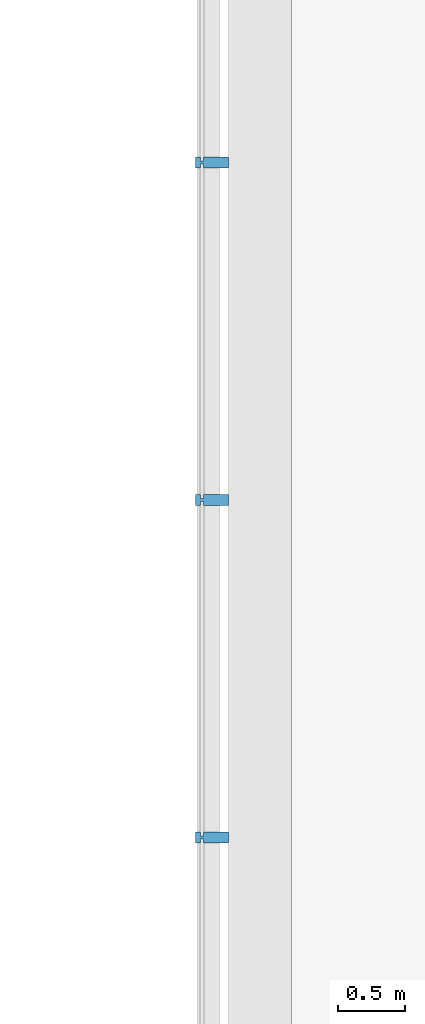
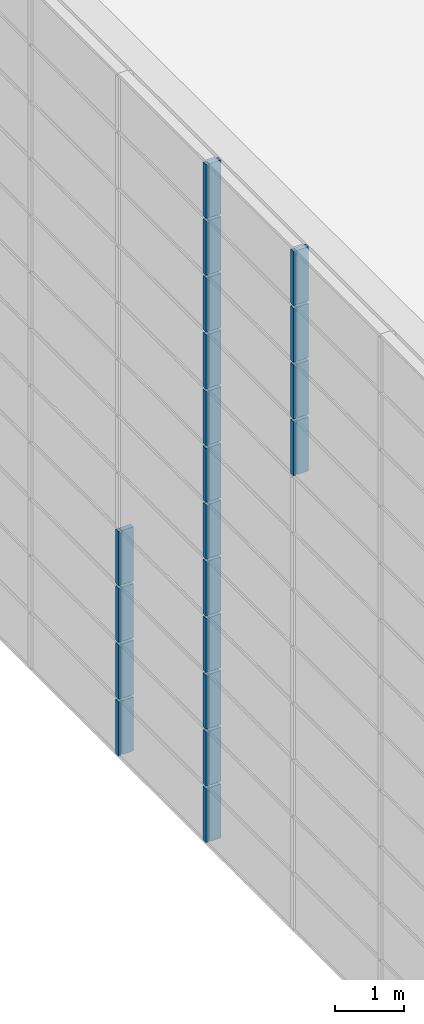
# One storey, part 71 of 105: 20 building element parts, 4 elements without a shape of their own.
"""IFC4 building model written with IfcOpenShell, lengths in millimetres."""

from ifc_helpers import new_model, entity, si_unit, converted_unit, derived_unit, direction, frame, origin_with_axes, place, context, subcontext, project, spatial, triangles, material, element, aggregate, save


model = new_model("IFC4")

# Units and contexts
model_context = context("Model", 3, precision=1e-05, world=origin_with_axes(), true_north=direction((0.0, 1.0)))
body_context = subcontext(model_context, "Body", "Model", "MODEL_VIEW")
ifc_project = project(units=[si_unit("LENGTHUNIT", "METRE", prefix="MILLI"), si_unit("AREAUNIT", "SQUARE_METRE"), si_unit("VOLUMEUNIT", "CUBIC_METRE"), converted_unit("PLANEANGLEUNIT", "DEGREE", entity("IfcLengthMeasure", 0.017453), si_unit("PLANEANGLEUNIT", "RADIAN"), dimensions=[0, 0, 0, 0, 0, 0, 0]), si_unit("SOLIDANGLEUNIT", "STERADIAN"), si_unit("MASSUNIT", "GRAM"), si_unit("TIMEUNIT", "SECOND"), si_unit("THERMODYNAMICTEMPERATUREUNIT", "DEGREE_CELSIUS"), si_unit("LUMINOUSINTENSITYUNIT", "LUMEN"), si_unit("POWERUNIT", "WATT"), derived_unit("THERMALTRANSMITTANCEUNIT", [(si_unit("POWERUNIT", "WATT"), 1), (si_unit("THERMODYNAMICTEMPERATUREUNIT", "KELVIN"), -1), (si_unit("AREAUNIT", "SQUARE_METRE"), -1)])], contexts=[model_context])

# Site, building, storey
site_placement = place(None, origin_with_axes())
site = spatial("IfcSite", under=ifc_project, at=site_placement, Name="Default Site", CompositionType="ELEMENT")
building_placement = place(site_placement, origin_with_axes())
building = spatial("IfcBuilding", under=site, at=building_placement, Name="Default Building", CompositionType="ELEMENT")
storey_placement = place(building_placement, origin_with_axes())
storey = spatial("IfcBuildingStorey", under=building, at=storey_placement, Name="OG - Story", CompositionType="ELEMENT", Elevation=0.0)

# Curtain wall, building element parts
curtain_wall_1_placement = place(storey_placement, origin_with_axes())
curtain_wall_1 = element("IfcCurtainWall", 1, at=curtain_wall_1_placement, inside=storey, Name="Fassade-003", PredefinedType="NOTDEFINED")
ifc_material = material(Name="Blech")
building_element_part_1_placement = place(curtain_wall_1_placement, frame((31551.391327, -51326.104944, 0.0), z_axis=(0.0, 0.0, 1.0), x_axis=(1.0, 0.0, 0.0)))
building_element_part_1 = element("IfcBuildingElementPart", 2, at=building_element_part_1_placement, material=ifc_material, Name="Blech", PredefinedType="NOTDEFINED", context=body_context, shape_type="Tessellation", body=[
    triangles([(200.0, 18907.368, 975.0), (10.0, 18907.368, 975.0), (200.0, 18987.368, 975.0), (10.0, 18937.368, 975.0), (10.0, 18957.368, 975.0), (-9.999, 18937.368, 975.0), (-9.999, 18957.368, 975.0), (-9.999, 18987.368, 975.0), (-9.999, 18907.368, 975.0), (-49.999, 18907.368, 975.0), (-49.999, 18987.368, 975.0), (10.0, 18987.368, 975.0), (10.0, 18957.368, 25.0), (-9.999, 18957.368, 25.0), (-9.999, 18987.368, 25.0), (-49.999, 18987.368, 25.0), (-49.999, 18907.368, 25.0), (-9.999, 18907.368, 25.0), (-9.999, 18937.368, 25.0), (10.0, 18937.368, 25.0), (10.0, 18907.368, 25.0), (200.0, 18907.368, 25.0), (200.0, 18987.368, 25.0), (10.0, 18987.368, 25.0)], [[1, 2, 3], [3, 2, 4], [3, 4, 5], [5, 4, 6], [5, 6, 7], [8, 9, 10], [8, 10, 11], [3, 5, 12], [5, 13, 14], [5, 14, 7], [7, 14, 15], [7, 15, 8], [15, 16, 11], [15, 11, 8], [10, 11, 16], [10, 16, 17], [18, 9, 10], [18, 10, 17], [9, 18, 19], [9, 19, 6], [4, 6, 19], [4, 19, 20], [2, 4, 20], [2, 20, 21], [2, 21, 22], [2, 22, 1], [3, 1, 22], [3, 22, 23], [12, 3, 23], [12, 23, 24], [12, 24, 13], [12, 13, 5], [23, 24, 22], [22, 24, 13], [22, 13, 20], [20, 13, 14], [20, 14, 19], [18, 15, 16], [18, 16, 17], [22, 20, 21]], closed=False),
])
building_element_part_2_placement = place(curtain_wall_1_placement, frame((31551.391327, -51326.104944, 0.0), z_axis=(0.0, 0.0, 1.0), x_axis=(1.0, 0.0, 0.0)))
building_element_part_2 = element("IfcBuildingElementPart", 3, at=building_element_part_2_placement, material=ifc_material, Name="Blech", PredefinedType="NOTDEFINED", context=body_context, shape_type="Tessellation", body=[
    triangles([(200.0, 21433.684, 975.0), (10.0, 21433.684, 975.0), (200.0, 21513.684, 975.0), (10.0, 21463.684, 975.0), (10.0, 21483.684, 975.0), (-9.999, 21463.684, 975.0), (-9.999, 21483.684, 975.0), (-9.999, 21513.684, 975.0), (-9.999, 21433.684, 975.0), (-49.999, 21433.684, 975.0), (-49.999, 21513.684, 975.0), (10.0, 21513.684, 975.0), (10.0, 21483.684, 25.0), (-9.999, 21483.684, 25.0), (-9.999, 21513.684, 25.0), (-49.999, 21513.684, 25.0), (-49.999, 21433.684, 25.0), (-9.999, 21433.684, 25.0), (-9.999, 21463.684, 25.0), (10.0, 21463.684, 25.0), (10.0, 21433.684, 25.0), (200.0, 21433.684, 25.0), (200.0, 21513.684, 25.0), (10.0, 21513.684, 25.0)], [[1, 2, 3], [3, 2, 4], [3, 4, 5], [5, 4, 6], [5, 6, 7], [8, 9, 10], [8, 10, 11], [3, 5, 12], [5, 13, 14], [5, 14, 7], [7, 14, 15], [7, 15, 8], [15, 16, 11], [15, 11, 8], [10, 11, 16], [10, 16, 17], [18, 9, 10], [18, 10, 17], [9, 18, 19], [9, 19, 6], [4, 6, 19], [4, 19, 20], [2, 4, 20], [2, 20, 21], [2, 21, 22], [2, 22, 1], [3, 1, 22], [3, 22, 23], [12, 3, 23], [12, 23, 24], [12, 24, 13], [12, 13, 5], [23, 24, 22], [22, 24, 13], [22, 13, 20], [20, 13, 14], [20, 14, 19], [18, 15, 16], [18, 16, 17], [22, 20, 21]], closed=False),
])
building_element_part_3_placement = place(curtain_wall_1_placement, frame((31551.391327, -51326.104944, 0.0), z_axis=(0.0, 0.0, 1.0), x_axis=(1.0, 0.0, 0.0)))
building_element_part_3 = element("IfcBuildingElementPart", 4, at=building_element_part_3_placement, material=ifc_material, Name="Blech", PredefinedType="NOTDEFINED", context=body_context, shape_type="Tessellation", body=[
    triangles([(200.0, 18907.368, 1975.0), (10.0, 18907.368, 1975.0), (200.0, 18987.368, 1975.0), (10.0, 18937.368, 1975.0), (10.0, 18957.368, 1975.0), (-9.999, 18937.368, 1975.0), (-9.999, 18957.368, 1975.0), (-9.999, 18987.368, 1975.0), (-9.999, 18907.368, 1975.0), (-49.999, 18907.368, 1975.0), (-49.999, 18987.368, 1975.0), (10.0, 18987.368, 1975.0), (10.0, 18957.368, 1025.0), (-9.999, 18957.368, 1025.0), (-9.999, 18987.368, 1025.0), (-49.999, 18987.368, 1025.0), (-49.999, 18907.368, 1025.0), (-9.999, 18907.368, 1025.0), (-9.999, 18937.368, 1025.0), (10.0, 18937.368, 1025.0), (10.0, 18907.368, 1025.0), (200.0, 18907.368, 1025.0), (200.0, 18987.368, 1025.0), (10.0, 18987.368, 1025.0)], [[1, 2, 3], [3, 2, 4], [3, 4, 5], [5, 4, 6], [5, 6, 7], [8, 9, 10], [8, 10, 11], [3, 5, 12], [5, 13, 14], [5, 14, 7], [7, 14, 15], [7, 15, 8], [15, 16, 11], [15, 11, 8], [10, 11, 16], [10, 16, 17], [18, 9, 10], [18, 10, 17], [9, 18, 19], [9, 19, 6], [4, 6, 19], [4, 19, 20], [2, 4, 20], [2, 20, 21], [2, 21, 22], [2, 22, 1], [3, 1, 22], [3, 22, 23], [12, 3, 23], [12, 23, 24], [12, 24, 13], [12, 13, 5], [23, 24, 22], [22, 24, 13], [22, 13, 20], [20, 13, 14], [20, 14, 19], [18, 15, 16], [18, 16, 17], [22, 20, 21]], closed=False),
])
building_element_part_4_placement = place(curtain_wall_1_placement, frame((31551.391327, -51326.104944, 0.0), z_axis=(0.0, 0.0, 1.0), x_axis=(1.0, 0.0, 0.0)))
building_element_part_4 = element("IfcBuildingElementPart", 5, at=building_element_part_4_placement, material=ifc_material, Name="Blech", PredefinedType="NOTDEFINED", context=body_context, shape_type="Tessellation", body=[
    triangles([(200.0, 21433.684, 1975.0), (10.0, 21433.684, 1975.0), (200.0, 21513.684, 1975.0), (10.0, 21463.684, 1975.0), (10.0, 21483.684, 1975.0), (-9.999, 21463.684, 1975.0), (-9.999, 21483.684, 1975.0), (-9.999, 21513.684, 1975.0), (-9.999, 21433.684, 1975.0), (-49.999, 21433.684, 1975.0), (-49.999, 21513.684, 1975.0), (10.0, 21513.684, 1975.0), (10.0, 21483.684, 1025.0), (-9.999, 21483.684, 1025.0), (-9.999, 21513.684, 1025.0), (-49.999, 21513.684, 1025.0), (-49.999, 21433.684, 1025.0), (-9.999, 21433.684, 1025.0), (-9.999, 21463.684, 1025.0), (10.0, 21463.684, 1025.0), (10.0, 21433.684, 1025.0), (200.0, 21433.684, 1025.0), (200.0, 21513.684, 1025.0), (10.0, 21513.684, 1025.0)], [[1, 2, 3], [3, 2, 4], [3, 4, 5], [5, 4, 6], [5, 6, 7], [8, 9, 10], [8, 10, 11], [3, 5, 12], [5, 13, 14], [5, 14, 7], [7, 14, 15], [7, 15, 8], [15, 16, 11], [15, 11, 8], [10, 11, 16], [10, 16, 17], [18, 9, 10], [18, 10, 17], [9, 18, 19], [9, 19, 6], [4, 6, 19], [4, 19, 20], [2, 4, 20], [2, 20, 21], [2, 21, 22], [2, 22, 1], [3, 1, 22], [3, 22, 23], [12, 3, 23], [12, 23, 24], [12, 24, 13], [12, 13, 5], [23, 24, 22], [22, 24, 13], [22, 13, 20], [20, 13, 14], [20, 14, 19], [18, 15, 16], [18, 16, 17], [22, 20, 21]], closed=False),
])
building_element_part_5_placement = place(curtain_wall_1_placement, frame((31551.391327, -51326.104944, 0.0), z_axis=(0.0, 0.0, 1.0), x_axis=(1.0, 0.0, 0.0)))
building_element_part_5 = element("IfcBuildingElementPart", 6, at=building_element_part_5_placement, material=ifc_material, Name="Blech", PredefinedType="NOTDEFINED", context=body_context, shape_type="Tessellation", body=[
    triangles([(200.0, 18907.368, 2975.0), (10.0, 18907.368, 2975.0), (200.0, 18987.368, 2975.0), (10.0, 18937.368, 2975.0), (10.0, 18957.368, 2975.0), (-9.999, 18937.368, 2975.0), (-9.999, 18957.368, 2975.0), (-9.999, 18987.368, 2975.0), (-9.999, 18907.368, 2975.0), (-49.999, 18907.368, 2975.0), (-49.999, 18987.368, 2975.0), (10.0, 18987.368, 2975.0), (10.0, 18957.368, 2025.0), (-9.999, 18957.368, 2025.0), (-9.999, 18987.368, 2025.0), (-49.999, 18987.368, 2025.0), (-49.999, 18907.368, 2025.0), (-9.999, 18907.368, 2025.0), (-9.999, 18937.368, 2025.0), (10.0, 18937.368, 2025.0), (10.0, 18907.368, 2025.0), (200.0, 18907.368, 2025.0), (200.0, 18987.368, 2025.0), (10.0, 18987.368, 2025.0)], [[1, 2, 3], [3, 2, 4], [3, 4, 5], [5, 4, 6], [5, 6, 7], [8, 9, 10], [8, 10, 11], [3, 5, 12], [5, 13, 14], [5, 14, 7], [7, 14, 15], [7, 15, 8], [15, 16, 11], [15, 11, 8], [10, 11, 16], [10, 16, 17], [18, 9, 10], [18, 10, 17], [9, 18, 19], [9, 19, 6], [4, 6, 19], [4, 19, 20], [2, 4, 20], [2, 20, 21], [2, 21, 22], [2, 22, 1], [3, 1, 22], [3, 22, 23], [12, 3, 23], [12, 23, 24], [12, 24, 13], [12, 13, 5], [23, 24, 22], [22, 24, 13], [22, 13, 20], [20, 13, 14], [20, 14, 19], [18, 15, 16], [18, 16, 17], [22, 20, 21]], closed=False),
])
building_element_part_6_placement = place(curtain_wall_1_placement, frame((31551.391327, -51326.104944, 0.0), z_axis=(0.0, 0.0, 1.0), x_axis=(1.0, 0.0, 0.0)))
building_element_part_6 = element("IfcBuildingElementPart", 7, at=building_element_part_6_placement, material=ifc_material, Name="Blech", PredefinedType="NOTDEFINED", context=body_context, shape_type="Tessellation", body=[
    triangles([(200.0, 21433.684, 2975.0), (10.0, 21433.684, 2975.0), (200.0, 21513.684, 2975.0), (10.0, 21463.684, 2975.0), (10.0, 21483.684, 2975.0), (-9.999, 21463.684, 2975.0), (-9.999, 21483.684, 2975.0), (-9.999, 21513.684, 2975.0), (-9.999, 21433.684, 2975.0), (-49.999, 21433.684, 2975.0), (-49.999, 21513.684, 2975.0), (10.0, 21513.684, 2975.0), (10.0, 21483.684, 2025.0), (-9.999, 21483.684, 2025.0), (-9.999, 21513.684, 2025.0), (-49.999, 21513.684, 2025.0), (-49.999, 21433.684, 2025.0), (-9.999, 21433.684, 2025.0), (-9.999, 21463.684, 2025.0), (10.0, 21463.684, 2025.0), (10.0, 21433.684, 2025.0), (200.0, 21433.684, 2025.0), (200.0, 21513.684, 2025.0), (10.0, 21513.684, 2025.0)], [[1, 2, 3], [3, 2, 4], [3, 4, 5], [5, 4, 6], [5, 6, 7], [8, 9, 10], [8, 10, 11], [3, 5, 12], [5, 13, 14], [5, 14, 7], [7, 14, 15], [7, 15, 8], [15, 16, 11], [15, 11, 8], [10, 11, 16], [10, 16, 17], [18, 9, 10], [18, 10, 17], [9, 18, 19], [9, 19, 6], [4, 6, 19], [4, 19, 20], [2, 4, 20], [2, 20, 21], [2, 21, 22], [2, 22, 1], [3, 1, 22], [3, 22, 23], [12, 3, 23], [12, 23, 24], [12, 24, 13], [12, 13, 5], [23, 24, 22], [22, 24, 13], [22, 13, 20], [20, 13, 14], [20, 14, 19], [18, 15, 16], [18, 16, 17], [22, 20, 21]], closed=False),
])
aggregate(curtain_wall_1, [building_element_part_1, building_element_part_2, building_element_part_3, building_element_part_4, building_element_part_5, building_element_part_6])

curtain_wall_2_placement = place(storey_placement, origin_with_axes())
curtain_wall_2 = element("IfcCurtainWall", 8, at=curtain_wall_2_placement, inside=storey, Name="Fassade-003", PredefinedType="NOTDEFINED")
building_element_part_7_placement = place(curtain_wall_2_placement, frame((31551.391327, -51326.104944, 3000.0), z_axis=(0.0, 0.0, 1.0), x_axis=(1.0, 0.0, 0.0)))
building_element_part_7 = element("IfcBuildingElementPart", 9, at=building_element_part_7_placement, material=ifc_material, Name="Blech", PredefinedType="NOTDEFINED", context=body_context, shape_type="Tessellation", body=[
    triangles([(200.0, 18907.368, 975.0), (10.0, 18907.368, 975.0), (200.0, 18987.368, 975.0), (10.0, 18937.368, 975.0), (10.0, 18957.368, 975.0), (-9.999, 18937.368, 975.0), (-9.999, 18957.368, 975.0), (-9.999, 18987.368, 975.0), (-9.999, 18907.368, 975.0), (-49.999, 18907.368, 975.0), (-49.999, 18987.368, 975.0), (10.0, 18987.368, 975.0), (10.0, 18957.368, 25.0), (-9.999, 18957.368, 25.0), (-9.999, 18987.368, 25.0), (-49.999, 18987.368, 25.0), (-49.999, 18907.368, 25.0), (-9.999, 18907.368, 25.0), (-9.999, 18937.368, 25.0), (10.0, 18937.368, 25.0), (10.0, 18907.368, 25.0), (200.0, 18907.368, 25.0), (200.0, 18987.368, 25.0), (10.0, 18987.368, 25.0)], [[1, 2, 3], [3, 2, 4], [3, 4, 5], [5, 4, 6], [5, 6, 7], [8, 9, 10], [8, 10, 11], [3, 5, 12], [5, 13, 14], [5, 14, 7], [7, 14, 15], [7, 15, 8], [15, 16, 11], [15, 11, 8], [10, 11, 16], [10, 16, 17], [18, 9, 10], [18, 10, 17], [9, 18, 19], [9, 19, 6], [4, 6, 19], [4, 19, 20], [2, 4, 20], [2, 20, 21], [2, 21, 22], [2, 22, 1], [3, 1, 22], [3, 22, 23], [12, 3, 23], [12, 23, 24], [12, 24, 13], [12, 13, 5], [23, 24, 22], [22, 24, 13], [22, 13, 20], [20, 13, 14], [20, 14, 19], [18, 15, 16], [18, 16, 17], [22, 20, 21]], closed=False),
])
building_element_part_8_placement = place(curtain_wall_2_placement, frame((31551.391327, -51326.104944, 3000.0), z_axis=(0.0, 0.0, 1.0), x_axis=(1.0, 0.0, 0.0)))
building_element_part_8 = element("IfcBuildingElementPart", 10, at=building_element_part_8_placement, material=ifc_material, Name="Blech", PredefinedType="NOTDEFINED", context=body_context, shape_type="Tessellation", body=[
    triangles([(200.0, 21433.684, 975.0), (10.0, 21433.684, 975.0), (200.0, 21513.684, 975.0), (10.0, 21463.684, 975.0), (10.0, 21483.684, 975.0), (-9.999, 21463.684, 975.0), (-9.999, 21483.684, 975.0), (-9.999, 21513.684, 975.0), (-9.999, 21433.684, 975.0), (-49.999, 21433.684, 975.0), (-49.999, 21513.684, 975.0), (10.0, 21513.684, 975.0), (10.0, 21483.684, 25.0), (-9.999, 21483.684, 25.0), (-9.999, 21513.684, 25.0), (-49.999, 21513.684, 25.0), (-49.999, 21433.684, 25.0), (-9.999, 21433.684, 25.0), (-9.999, 21463.684, 25.0), (10.0, 21463.684, 25.0), (10.0, 21433.684, 25.0), (200.0, 21433.684, 25.0), (200.0, 21513.684, 25.0), (10.0, 21513.684, 25.0)], [[1, 2, 3], [3, 2, 4], [3, 4, 5], [5, 4, 6], [5, 6, 7], [8, 9, 10], [8, 10, 11], [3, 5, 12], [5, 13, 14], [5, 14, 7], [7, 14, 15], [7, 15, 8], [15, 16, 11], [15, 11, 8], [10, 11, 16], [10, 16, 17], [18, 9, 10], [18, 10, 17], [9, 18, 19], [9, 19, 6], [4, 6, 19], [4, 19, 20], [2, 4, 20], [2, 20, 21], [2, 21, 22], [2, 22, 1], [3, 1, 22], [3, 22, 23], [12, 3, 23], [12, 23, 24], [12, 24, 13], [12, 13, 5], [23, 24, 22], [22, 24, 13], [22, 13, 20], [20, 13, 14], [20, 14, 19], [18, 15, 16], [18, 16, 17], [22, 20, 21]], closed=False),
])
building_element_part_9_placement = place(curtain_wall_2_placement, frame((31551.391327, -51326.104944, 3000.0), z_axis=(0.0, 0.0, 1.0), x_axis=(1.0, 0.0, 0.0)))
building_element_part_9 = element("IfcBuildingElementPart", 11, at=building_element_part_9_placement, material=ifc_material, Name="Blech", PredefinedType="NOTDEFINED", context=body_context, shape_type="Tessellation", body=[
    triangles([(200.0, 18907.368, 1975.0), (10.0, 18907.368, 1975.0), (200.0, 18987.368, 1975.0), (10.0, 18937.368, 1975.0), (10.0, 18957.368, 1975.0), (-9.999, 18937.368, 1975.0), (-9.999, 18957.368, 1975.0), (-9.999, 18987.368, 1975.0), (-9.999, 18907.368, 1975.0), (-49.999, 18907.368, 1975.0), (-49.999, 18987.368, 1975.0), (10.0, 18987.368, 1975.0), (10.0, 18957.368, 1025.0), (-9.999, 18957.368, 1025.0), (-9.999, 18987.368, 1025.0), (-49.999, 18987.368, 1025.0), (-49.999, 18907.368, 1025.0), (-9.999, 18907.368, 1025.0), (-9.999, 18937.368, 1025.0), (10.0, 18937.368, 1025.0), (10.0, 18907.368, 1025.0), (200.0, 18907.368, 1025.0), (200.0, 18987.368, 1025.0), (10.0, 18987.368, 1025.0)], [[1, 2, 3], [3, 2, 4], [3, 4, 5], [5, 4, 6], [5, 6, 7], [8, 9, 10], [8, 10, 11], [3, 5, 12], [5, 13, 14], [5, 14, 7], [7, 14, 15], [7, 15, 8], [15, 16, 11], [15, 11, 8], [10, 11, 16], [10, 16, 17], [18, 9, 10], [18, 10, 17], [9, 18, 19], [9, 19, 6], [4, 6, 19], [4, 19, 20], [2, 4, 20], [2, 20, 21], [2, 21, 22], [2, 22, 1], [3, 1, 22], [3, 22, 23], [12, 3, 23], [12, 23, 24], [12, 24, 13], [12, 13, 5], [23, 24, 22], [22, 24, 13], [22, 13, 20], [20, 13, 14], [20, 14, 19], [18, 15, 16], [18, 16, 17], [22, 20, 21]], closed=False),
])
building_element_part_10_placement = place(curtain_wall_2_placement, frame((31551.391327, -51326.104944, 3000.0), z_axis=(0.0, 0.0, 1.0), x_axis=(1.0, 0.0, 0.0)))
building_element_part_10 = element("IfcBuildingElementPart", 12, at=building_element_part_10_placement, material=ifc_material, Name="Blech", PredefinedType="NOTDEFINED", context=body_context, shape_type="Tessellation", body=[
    triangles([(200.0, 18907.368, 2975.0), (10.0, 18907.368, 2975.0), (200.0, 18987.368, 2975.0), (10.0, 18937.368, 2975.0), (10.0, 18957.368, 2975.0), (-9.999, 18937.368, 2975.0), (-9.999, 18957.368, 2975.0), (-9.999, 18987.368, 2975.0), (-9.999, 18907.368, 2975.0), (-49.999, 18907.368, 2975.0), (-49.999, 18987.368, 2975.0), (10.0, 18987.368, 2975.0), (10.0, 18957.368, 2025.0), (-9.999, 18957.368, 2025.0), (-9.999, 18987.368, 2025.0), (-49.999, 18987.368, 2025.0), (-49.999, 18907.368, 2025.0), (-9.999, 18907.368, 2025.0), (-9.999, 18937.368, 2025.0), (10.0, 18937.368, 2025.0), (10.0, 18907.368, 2025.0), (200.0, 18907.368, 2025.0), (200.0, 18987.368, 2025.0), (10.0, 18987.368, 2025.0)], [[1, 2, 3], [3, 2, 4], [3, 4, 5], [5, 4, 6], [5, 6, 7], [8, 9, 10], [8, 10, 11], [3, 5, 12], [5, 13, 14], [5, 14, 7], [7, 14, 15], [7, 15, 8], [15, 16, 11], [15, 11, 8], [10, 11, 16], [10, 16, 17], [18, 9, 10], [18, 10, 17], [9, 18, 19], [9, 19, 6], [4, 6, 19], [4, 19, 20], [2, 4, 20], [2, 20, 21], [2, 21, 22], [2, 22, 1], [3, 1, 22], [3, 22, 23], [12, 3, 23], [12, 23, 24], [12, 24, 13], [12, 13, 5], [23, 24, 22], [22, 24, 13], [22, 13, 20], [20, 13, 14], [20, 14, 19], [18, 15, 16], [18, 16, 17], [22, 20, 21]], closed=False),
])
aggregate(curtain_wall_2, [building_element_part_7, building_element_part_8, building_element_part_9, building_element_part_10])

curtain_wall_3_placement = place(storey_placement, origin_with_axes())
curtain_wall_3 = element("IfcCurtainWall", 13, at=curtain_wall_3_placement, inside=storey, Name="Fassade-003", PredefinedType="NOTDEFINED")
building_element_part_11_placement = place(curtain_wall_3_placement, frame((31551.391327, -51326.104944, 6000.0), z_axis=(0.0, 0.0, 1.0), x_axis=(1.0, 0.0, 0.0)))
building_element_part_11 = element("IfcBuildingElementPart", 14, at=building_element_part_11_placement, material=ifc_material, Name="Blech", PredefinedType="NOTDEFINED", context=body_context, shape_type="Tessellation", body=[
    triangles([(200.0, 18907.368, 975.0), (10.0, 18907.368, 975.0), (200.0, 18987.368, 975.0), (10.0, 18937.368, 975.0), (10.0, 18957.368, 975.0), (-9.999, 18937.368, 975.0), (-9.999, 18957.368, 975.0), (-9.999, 18987.368, 975.0), (-9.999, 18907.368, 975.0), (-49.999, 18907.368, 975.0), (-49.999, 18987.368, 975.0), (10.0, 18987.368, 975.0), (10.0, 18957.368, 25.0), (-9.999, 18957.368, 25.0), (-9.999, 18987.368, 25.0), (-49.999, 18987.368, 25.0), (-49.999, 18907.368, 25.0), (-9.999, 18907.368, 25.0), (-9.999, 18937.368, 25.0), (10.0, 18937.368, 25.0), (10.0, 18907.368, 25.0), (200.0, 18907.368, 25.0), (200.0, 18987.368, 25.0), (10.0, 18987.368, 25.0)], [[1, 2, 3], [3, 2, 4], [3, 4, 5], [5, 4, 6], [5, 6, 7], [8, 9, 10], [8, 10, 11], [3, 5, 12], [5, 13, 14], [5, 14, 7], [7, 14, 15], [7, 15, 8], [15, 16, 11], [15, 11, 8], [10, 11, 16], [10, 16, 17], [18, 9, 10], [18, 10, 17], [9, 18, 19], [9, 19, 6], [4, 6, 19], [4, 19, 20], [2, 4, 20], [2, 20, 21], [2, 21, 22], [2, 22, 1], [3, 1, 22], [3, 22, 23], [12, 3, 23], [12, 23, 24], [12, 24, 13], [12, 13, 5], [23, 24, 22], [22, 24, 13], [22, 13, 20], [20, 13, 14], [20, 14, 19], [18, 15, 16], [18, 16, 17], [22, 20, 21]], closed=False),
])
building_element_part_12_placement = place(curtain_wall_3_placement, frame((31551.391327, -51326.104944, 6000.0), z_axis=(0.0, 0.0, 1.0), x_axis=(1.0, 0.0, 0.0)))
building_element_part_12 = element("IfcBuildingElementPart", 15, at=building_element_part_12_placement, material=ifc_material, Name="Blech", PredefinedType="NOTDEFINED", context=body_context, shape_type="Tessellation", body=[
    triangles([(200.0, 18907.368, 1975.0), (10.0, 18907.368, 1975.0), (200.0, 18987.368, 1975.0), (10.0, 18937.368, 1975.0), (10.0, 18957.368, 1975.0), (-9.999, 18937.368, 1975.0), (-9.999, 18957.368, 1975.0), (-9.999, 18987.368, 1975.0), (-9.999, 18907.368, 1975.0), (-49.999, 18907.368, 1975.0), (-49.999, 18987.368, 1975.0), (10.0, 18987.368, 1975.0), (10.0, 18957.368, 1025.0), (-9.999, 18957.368, 1025.0), (-9.999, 18987.368, 1025.0), (-49.999, 18987.368, 1025.0), (-49.999, 18907.368, 1025.0), (-9.999, 18907.368, 1025.0), (-9.999, 18937.368, 1025.0), (10.0, 18937.368, 1025.0), (10.0, 18907.368, 1025.0), (200.0, 18907.368, 1025.0), (200.0, 18987.368, 1025.0), (10.0, 18987.368, 1025.0)], [[1, 2, 3], [3, 2, 4], [3, 4, 5], [5, 4, 6], [5, 6, 7], [8, 9, 10], [8, 10, 11], [3, 5, 12], [5, 13, 14], [5, 14, 7], [7, 14, 15], [7, 15, 8], [15, 16, 11], [15, 11, 8], [10, 11, 16], [10, 16, 17], [18, 9, 10], [18, 10, 17], [9, 18, 19], [9, 19, 6], [4, 6, 19], [4, 19, 20], [2, 4, 20], [2, 20, 21], [2, 21, 22], [2, 22, 1], [3, 1, 22], [3, 22, 23], [12, 3, 23], [12, 23, 24], [12, 24, 13], [12, 13, 5], [23, 24, 22], [22, 24, 13], [22, 13, 20], [20, 13, 14], [20, 14, 19], [18, 15, 16], [18, 16, 17], [22, 20, 21]], closed=False),
])
building_element_part_13_placement = place(curtain_wall_3_placement, frame((31551.391327, -51326.104944, 6000.0), z_axis=(0.0, 0.0, 1.0), x_axis=(1.0, 0.0, 0.0)))
building_element_part_13 = element("IfcBuildingElementPart", 16, at=building_element_part_13_placement, material=ifc_material, Name="Blech", PredefinedType="NOTDEFINED", context=body_context, shape_type="Tessellation", body=[
    triangles([(200.0, 16381.053, 2975.0), (10.0, 16381.053, 2975.0), (200.0, 16461.053, 2975.0), (10.0, 16411.053, 2975.0), (10.0, 16431.053, 2975.0), (-9.999, 16411.053, 2975.0), (-9.999, 16431.053, 2975.0), (-9.999, 16461.053, 2975.0), (-9.999, 16381.053, 2975.0), (-49.999, 16381.053, 2975.0), (-49.999, 16461.053, 2975.0), (10.0, 16461.053, 2975.0), (10.0, 16431.053, 2025.0), (-9.999, 16431.053, 2025.0), (-9.999, 16461.053, 2025.0), (-49.999, 16461.053, 2025.0), (-49.999, 16381.053, 2025.0), (-9.999, 16381.053, 2025.0), (-9.999, 16411.053, 2025.0), (10.0, 16411.053, 2025.0), (10.0, 16381.053, 2025.0), (200.0, 16381.053, 2025.0), (200.0, 16461.053, 2025.0), (10.0, 16461.053, 2025.0)], [[1, 2, 3], [3, 2, 4], [3, 4, 5], [5, 4, 6], [5, 6, 7], [8, 9, 10], [8, 10, 11], [3, 5, 12], [5, 13, 14], [5, 14, 7], [7, 14, 15], [7, 15, 8], [15, 16, 11], [15, 11, 8], [10, 11, 16], [10, 16, 17], [18, 9, 10], [18, 10, 17], [9, 18, 19], [9, 19, 6], [4, 6, 19], [4, 19, 20], [2, 4, 20], [2, 20, 21], [2, 21, 22], [2, 22, 1], [3, 1, 22], [3, 22, 23], [12, 3, 23], [12, 23, 24], [12, 24, 13], [12, 13, 5], [23, 24, 22], [22, 24, 13], [22, 13, 20], [20, 13, 14], [20, 14, 19], [18, 15, 16], [18, 16, 17], [22, 20, 21]], closed=False),
])
building_element_part_14_placement = place(curtain_wall_3_placement, frame((31551.391327, -51326.104944, 6000.0), z_axis=(0.0, 0.0, 1.0), x_axis=(1.0, 0.0, 0.0)))
building_element_part_14 = element("IfcBuildingElementPart", 17, at=building_element_part_14_placement, material=ifc_material, Name="Blech", PredefinedType="NOTDEFINED", context=body_context, shape_type="Tessellation", body=[
    triangles([(200.0, 18907.368, 2975.0), (10.0, 18907.368, 2975.0), (200.0, 18987.368, 2975.0), (10.0, 18937.368, 2975.0), (10.0, 18957.368, 2975.0), (-9.999, 18937.368, 2975.0), (-9.999, 18957.368, 2975.0), (-9.999, 18987.368, 2975.0), (-9.999, 18907.368, 2975.0), (-49.999, 18907.368, 2975.0), (-49.999, 18987.368, 2975.0), (10.0, 18987.368, 2975.0), (10.0, 18957.368, 2025.0), (-9.999, 18957.368, 2025.0), (-9.999, 18987.368, 2025.0), (-49.999, 18987.368, 2025.0), (-49.999, 18907.368, 2025.0), (-9.999, 18907.368, 2025.0), (-9.999, 18937.368, 2025.0), (10.0, 18937.368, 2025.0), (10.0, 18907.368, 2025.0), (200.0, 18907.368, 2025.0), (200.0, 18987.368, 2025.0), (10.0, 18987.368, 2025.0)], [[1, 2, 3], [3, 2, 4], [3, 4, 5], [5, 4, 6], [5, 6, 7], [8, 9, 10], [8, 10, 11], [3, 5, 12], [5, 13, 14], [5, 14, 7], [7, 14, 15], [7, 15, 8], [15, 16, 11], [15, 11, 8], [10, 11, 16], [10, 16, 17], [18, 9, 10], [18, 10, 17], [9, 18, 19], [9, 19, 6], [4, 6, 19], [4, 19, 20], [2, 4, 20], [2, 20, 21], [2, 21, 22], [2, 22, 1], [3, 1, 22], [3, 22, 23], [12, 3, 23], [12, 23, 24], [12, 24, 13], [12, 13, 5], [23, 24, 22], [22, 24, 13], [22, 13, 20], [20, 13, 14], [20, 14, 19], [18, 15, 16], [18, 16, 17], [22, 20, 21]], closed=False),
])
aggregate(curtain_wall_3, [building_element_part_11, building_element_part_12, building_element_part_13, building_element_part_14])

curtain_wall_4_placement = place(storey_placement, origin_with_axes())
curtain_wall_4 = element("IfcCurtainWall", 18, at=curtain_wall_4_placement, inside=storey, Name="Fassade-003", PredefinedType="NOTDEFINED")
building_element_part_15_placement = place(curtain_wall_4_placement, frame((31551.391327, -51326.104944, 9000.0), z_axis=(0.0, 0.0, 1.0), x_axis=(1.0, 0.0, 0.0)))
building_element_part_15 = element("IfcBuildingElementPart", 19, at=building_element_part_15_placement, material=ifc_material, Name="Blech", PredefinedType="NOTDEFINED", context=body_context, shape_type="Tessellation", body=[
    triangles([(200.0, 16381.053, 975.0), (10.0, 16381.053, 975.0), (200.0, 16461.053, 975.0), (10.0, 16411.053, 975.0), (10.0, 16431.053, 975.0), (-9.999, 16411.053, 975.0), (-9.999, 16431.053, 975.0), (-9.999, 16461.053, 975.0), (-9.999, 16381.053, 975.0), (-49.999, 16381.053, 975.0), (-49.999, 16461.053, 975.0), (10.0, 16461.053, 975.0), (10.0, 16431.053, 25.0), (-9.999, 16431.053, 25.0), (-9.999, 16461.053, 25.0), (-49.999, 16461.053, 25.0), (-49.999, 16381.053, 25.0), (-9.999, 16381.053, 25.0), (-9.999, 16411.053, 25.0), (10.0, 16411.053, 25.0), (10.0, 16381.053, 25.0), (200.0, 16381.053, 25.0), (200.0, 16461.053, 25.0), (10.0, 16461.053, 25.0)], [[1, 2, 3], [3, 2, 4], [3, 4, 5], [5, 4, 6], [5, 6, 7], [8, 9, 10], [8, 10, 11], [3, 5, 12], [5, 13, 14], [5, 14, 7], [7, 14, 15], [7, 15, 8], [15, 16, 11], [15, 11, 8], [10, 11, 16], [10, 16, 17], [18, 9, 10], [18, 10, 17], [9, 18, 19], [9, 19, 6], [4, 6, 19], [4, 19, 20], [2, 4, 20], [2, 20, 21], [2, 21, 22], [2, 22, 1], [3, 1, 22], [3, 22, 23], [12, 3, 23], [12, 23, 24], [12, 24, 13], [12, 13, 5], [23, 24, 22], [22, 24, 13], [22, 13, 20], [20, 13, 14], [20, 14, 19], [18, 15, 16], [18, 16, 17], [22, 20, 21]], closed=False),
])
building_element_part_16_placement = place(curtain_wall_4_placement, frame((31551.391327, -51326.104944, 9000.0), z_axis=(0.0, 0.0, 1.0), x_axis=(1.0, 0.0, 0.0)))
building_element_part_16 = element("IfcBuildingElementPart", 20, at=building_element_part_16_placement, material=ifc_material, Name="Blech", PredefinedType="NOTDEFINED", context=body_context, shape_type="Tessellation", body=[
    triangles([(200.0, 18907.368, 975.0), (10.0, 18907.368, 975.0), (200.0, 18987.368, 975.0), (10.0, 18937.368, 975.0), (10.0, 18957.368, 975.0), (-9.999, 18937.368, 975.0), (-9.999, 18957.368, 975.0), (-9.999, 18987.368, 975.0), (-9.999, 18907.368, 975.0), (-49.999, 18907.368, 975.0), (-49.999, 18987.368, 975.0), (10.0, 18987.368, 975.0), (10.0, 18957.368, 25.0), (-9.999, 18957.368, 25.0), (-9.999, 18987.368, 25.0), (-49.999, 18987.368, 25.0), (-49.999, 18907.368, 25.0), (-9.999, 18907.368, 25.0), (-9.999, 18937.368, 25.0), (10.0, 18937.368, 25.0), (10.0, 18907.368, 25.0), (200.0, 18907.368, 25.0), (200.0, 18987.368, 25.0), (10.0, 18987.368, 25.0)], [[1, 2, 3], [3, 2, 4], [3, 4, 5], [5, 4, 6], [5, 6, 7], [8, 9, 10], [8, 10, 11], [3, 5, 12], [5, 13, 14], [5, 14, 7], [7, 14, 15], [7, 15, 8], [15, 16, 11], [15, 11, 8], [10, 11, 16], [10, 16, 17], [18, 9, 10], [18, 10, 17], [9, 18, 19], [9, 19, 6], [4, 6, 19], [4, 19, 20], [2, 4, 20], [2, 20, 21], [2, 21, 22], [2, 22, 1], [3, 1, 22], [3, 22, 23], [12, 3, 23], [12, 23, 24], [12, 24, 13], [12, 13, 5], [23, 24, 22], [22, 24, 13], [22, 13, 20], [20, 13, 14], [20, 14, 19], [18, 15, 16], [18, 16, 17], [22, 20, 21]], closed=False),
])
building_element_part_17_placement = place(curtain_wall_4_placement, frame((31551.391327, -51326.104944, 9000.0), z_axis=(0.0, 0.0, 1.0), x_axis=(1.0, 0.0, 0.0)))
building_element_part_17 = element("IfcBuildingElementPart", 21, at=building_element_part_17_placement, material=ifc_material, Name="Blech", PredefinedType="NOTDEFINED", context=body_context, shape_type="Tessellation", body=[
    triangles([(200.0, 16381.053, 1975.0), (10.0, 16381.053, 1975.0), (200.0, 16461.053, 1975.0), (10.0, 16411.053, 1975.0), (10.0, 16431.053, 1975.0), (-9.999, 16411.053, 1975.0), (-9.999, 16431.053, 1975.0), (-9.999, 16461.053, 1975.0), (-9.999, 16381.053, 1975.0), (-49.999, 16381.053, 1975.0), (-49.999, 16461.053, 1975.0), (10.0, 16461.053, 1975.0), (10.0, 16431.053, 1025.0), (-9.999, 16431.053, 1025.0), (-9.999, 16461.053, 1025.0), (-49.999, 16461.053, 1025.0), (-49.999, 16381.053, 1025.0), (-9.999, 16381.053, 1025.0), (-9.999, 16411.053, 1025.0), (10.0, 16411.053, 1025.0), (10.0, 16381.053, 1025.0), (200.0, 16381.053, 1025.0), (200.0, 16461.053, 1025.0), (10.0, 16461.053, 1025.0)], [[1, 2, 3], [3, 2, 4], [3, 4, 5], [5, 4, 6], [5, 6, 7], [8, 9, 10], [8, 10, 11], [3, 5, 12], [5, 13, 14], [5, 14, 7], [7, 14, 15], [7, 15, 8], [15, 16, 11], [15, 11, 8], [10, 11, 16], [10, 16, 17], [18, 9, 10], [18, 10, 17], [9, 18, 19], [9, 19, 6], [4, 6, 19], [4, 19, 20], [2, 4, 20], [2, 20, 21], [2, 21, 22], [2, 22, 1], [3, 1, 22], [3, 22, 23], [12, 3, 23], [12, 23, 24], [12, 24, 13], [12, 13, 5], [23, 24, 22], [22, 24, 13], [22, 13, 20], [20, 13, 14], [20, 14, 19], [18, 15, 16], [18, 16, 17], [22, 20, 21]], closed=False),
])
building_element_part_18_placement = place(curtain_wall_4_placement, frame((31551.391327, -51326.104944, 9000.0), z_axis=(0.0, 0.0, 1.0), x_axis=(1.0, 0.0, 0.0)))
building_element_part_18 = element("IfcBuildingElementPart", 22, at=building_element_part_18_placement, material=ifc_material, Name="Blech", PredefinedType="NOTDEFINED", context=body_context, shape_type="Tessellation", body=[
    triangles([(200.0, 18907.368, 1975.0), (10.0, 18907.368, 1975.0), (200.0, 18987.368, 1975.0), (10.0, 18937.368, 1975.0), (10.0, 18957.368, 1975.0), (-9.999, 18937.368, 1975.0), (-9.999, 18957.368, 1975.0), (-9.999, 18987.368, 1975.0), (-9.999, 18907.368, 1975.0), (-49.999, 18907.368, 1975.0), (-49.999, 18987.368, 1975.0), (10.0, 18987.368, 1975.0), (10.0, 18957.368, 1025.0), (-9.999, 18957.368, 1025.0), (-9.999, 18987.368, 1025.0), (-49.999, 18987.368, 1025.0), (-49.999, 18907.368, 1025.0), (-9.999, 18907.368, 1025.0), (-9.999, 18937.368, 1025.0), (10.0, 18937.368, 1025.0), (10.0, 18907.368, 1025.0), (200.0, 18907.368, 1025.0), (200.0, 18987.368, 1025.0), (10.0, 18987.368, 1025.0)], [[1, 2, 3], [3, 2, 4], [3, 4, 5], [5, 4, 6], [5, 6, 7], [8, 9, 10], [8, 10, 11], [3, 5, 12], [5, 13, 14], [5, 14, 7], [7, 14, 15], [7, 15, 8], [15, 16, 11], [15, 11, 8], [10, 11, 16], [10, 16, 17], [18, 9, 10], [18, 10, 17], [9, 18, 19], [9, 19, 6], [4, 6, 19], [4, 19, 20], [2, 4, 20], [2, 20, 21], [2, 21, 22], [2, 22, 1], [3, 1, 22], [3, 22, 23], [12, 3, 23], [12, 23, 24], [12, 24, 13], [12, 13, 5], [23, 24, 22], [22, 24, 13], [22, 13, 20], [20, 13, 14], [20, 14, 19], [18, 15, 16], [18, 16, 17], [22, 20, 21]], closed=False),
])
building_element_part_19_placement = place(curtain_wall_4_placement, frame((31551.391327, -51326.104944, 9000.0), z_axis=(0.0, 0.0, 1.0), x_axis=(1.0, 0.0, 0.0)))
building_element_part_19 = element("IfcBuildingElementPart", 23, at=building_element_part_19_placement, material=ifc_material, Name="Blech", PredefinedType="NOTDEFINED", context=body_context, shape_type="Tessellation", body=[
    triangles([(200.0, 16381.053, 2975.0), (10.0, 16381.053, 2975.0), (200.0, 16461.053, 2975.0), (10.0, 16411.053, 2975.0), (10.0, 16431.053, 2975.0), (-9.999, 16411.053, 2975.0), (-9.999, 16431.053, 2975.0), (-9.999, 16461.053, 2975.0), (-9.999, 16381.053, 2975.0), (-49.999, 16381.053, 2975.0), (-49.999, 16461.053, 2975.0), (10.0, 16461.053, 2975.0), (10.0, 16431.053, 2025.0), (-9.999, 16431.053, 2025.0), (-9.999, 16461.053, 2025.0), (-49.999, 16461.053, 2025.0), (-49.999, 16381.053, 2025.0), (-9.999, 16381.053, 2025.0), (-9.999, 16411.053, 2025.0), (10.0, 16411.053, 2025.0), (10.0, 16381.053, 2025.0), (200.0, 16381.053, 2025.0), (200.0, 16461.053, 2025.0), (10.0, 16461.053, 2025.0)], [[1, 2, 3], [3, 2, 4], [3, 4, 5], [5, 4, 6], [5, 6, 7], [8, 9, 10], [8, 10, 11], [3, 5, 12], [5, 13, 14], [5, 14, 7], [7, 14, 15], [7, 15, 8], [15, 16, 11], [15, 11, 8], [10, 11, 16], [10, 16, 17], [18, 9, 10], [18, 10, 17], [9, 18, 19], [9, 19, 6], [4, 6, 19], [4, 19, 20], [2, 4, 20], [2, 20, 21], [2, 21, 22], [2, 22, 1], [3, 1, 22], [3, 22, 23], [12, 3, 23], [12, 23, 24], [12, 24, 13], [12, 13, 5], [23, 24, 22], [22, 24, 13], [22, 13, 20], [20, 13, 14], [20, 14, 19], [18, 15, 16], [18, 16, 17], [22, 20, 21]], closed=False),
])
building_element_part_20_placement = place(curtain_wall_4_placement, frame((31551.391327, -51326.104944, 9000.0), z_axis=(0.0, 0.0, 1.0), x_axis=(1.0, 0.0, 0.0)))
building_element_part_20 = element("IfcBuildingElementPart", 24, at=building_element_part_20_placement, material=ifc_material, Name="Blech", PredefinedType="NOTDEFINED", context=body_context, shape_type="Tessellation", body=[
    triangles([(200.0, 18907.368, 2975.0), (10.0, 18907.368, 2975.0), (200.0, 18987.368, 2975.0), (10.0, 18937.368, 2975.0), (10.0, 18957.368, 2975.0), (-9.999, 18937.368, 2975.0), (-9.999, 18957.368, 2975.0), (-9.999, 18987.368, 2975.0), (-9.999, 18907.368, 2975.0), (-49.999, 18907.368, 2975.0), (-49.999, 18987.368, 2975.0), (10.0, 18987.368, 2975.0), (10.0, 18957.368, 2025.0), (-9.999, 18957.368, 2025.0), (-9.999, 18987.368, 2025.0), (-49.999, 18987.368, 2025.0), (-49.999, 18907.368, 2025.0), (-9.999, 18907.368, 2025.0), (-9.999, 18937.368, 2025.0), (10.0, 18937.368, 2025.0), (10.0, 18907.368, 2025.0), (200.0, 18907.368, 2025.0), (200.0, 18987.368, 2025.0), (10.0, 18987.368, 2025.0)], [[1, 2, 3], [3, 2, 4], [3, 4, 5], [5, 4, 6], [5, 6, 7], [8, 9, 10], [8, 10, 11], [3, 5, 12], [5, 13, 14], [5, 14, 7], [7, 14, 15], [7, 15, 8], [15, 16, 11], [15, 11, 8], [10, 11, 16], [10, 16, 17], [18, 9, 10], [18, 10, 17], [9, 18, 19], [9, 19, 6], [4, 6, 19], [4, 19, 20], [2, 4, 20], [2, 20, 21], [2, 21, 22], [2, 22, 1], [3, 1, 22], [3, 22, 23], [12, 3, 23], [12, 23, 24], [12, 24, 13], [12, 13, 5], [23, 24, 22], [22, 24, 13], [22, 13, 20], [20, 13, 14], [20, 14, 19], [18, 15, 16], [18, 16, 17], [22, 20, 21]], closed=False),
])
aggregate(curtain_wall_4, [building_element_part_15, building_element_part_16, building_element_part_17, building_element_part_18, building_element_part_19, building_element_part_20])

save(model, "model.ifc")
